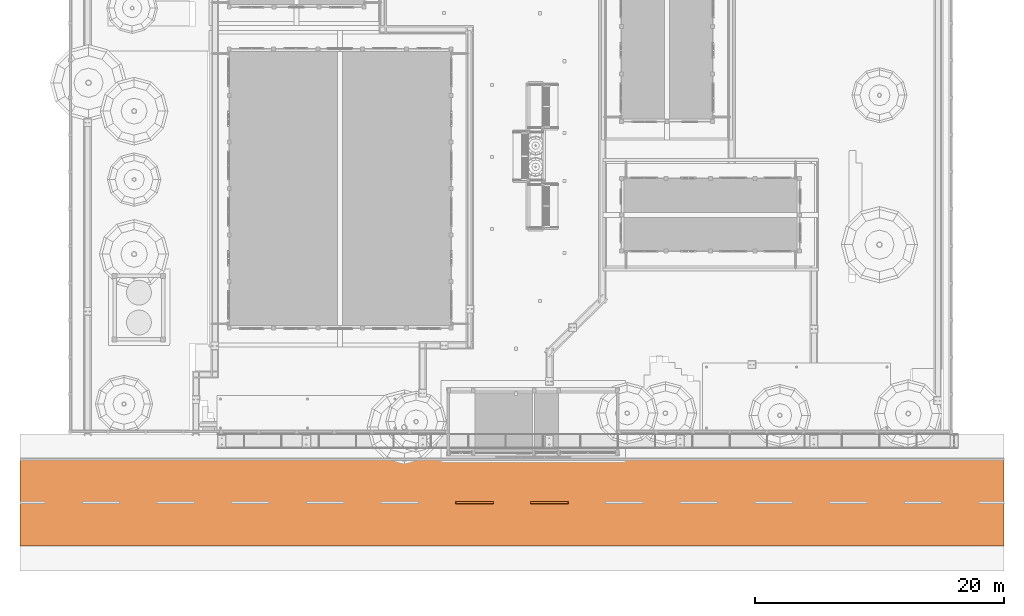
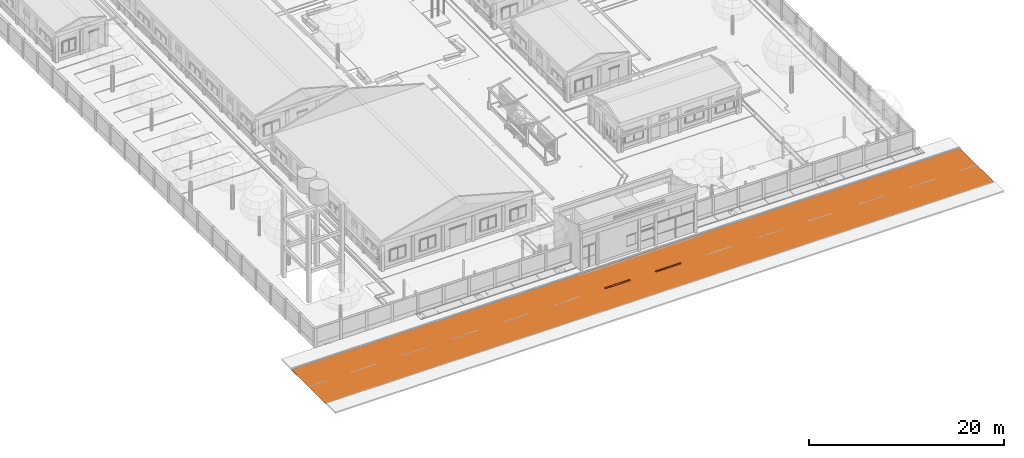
# One storey, part 156 of 177: 3 proxies.
"""IFC4 building model written with IfcOpenShell, lengths in metres."""

from ifc_helpers import new_model, si_unit, origin, origin_with_axes, place, context, subcontext, project, spatial, triangles, element, save


model = new_model("IFC4")

# Units and contexts
model_context = context("Model", 3, precision=1e-05, world=origin_with_axes())
body_context = subcontext(model_context, "Body", "Model", "MODEL_VIEW")
ifc_project = project(units=[si_unit("LENGTHUNIT", "METRE"), si_unit("AREAUNIT", "SQUARE_METRE"), si_unit("VOLUMEUNIT", "CUBIC_METRE"), si_unit("PLANEANGLEUNIT", "RADIAN")], contexts=[model_context])

# Site, building, storey
site_placement = place(None, origin_with_axes())
site = spatial("IfcSite", under=ifc_project, at=site_placement, Name="Predio Los Mangos - Morales, San Martín", CompositionType="ELEMENT")
building_placement = place(site_placement, origin())
building = spatial("IfcBuilding", under=site, at=building_placement, Name="Hogar de Refugio Temporal", CompositionType="ELEMENT")
storey_placement = place(building_placement, origin())
storey = spatial("IfcBuildingStorey", under=building, at=storey_placement, Name="NIVEL 1 (NPT +0.00)", CompositionType="ELEMENT", Elevation=0.0)

# Proxies
proxy_1_placement = place(storey_placement, origin())
element("IfcBuildingElementProxy", 1, at=proxy_1_placement, inside=storey, Name="pista", ObjectType="Losa deportiva y vía", PredefinedType="NOTDEFINED", context=body_context, shape_type="Tessellation", body=[
    triangles([(-3.0, 8.8, -0.02), (76.0, 8.8, -0.02), (76.0, 15.8, -0.02), (-3.0, 15.8, -0.02), (-3.0, 8.8, 0.02), (76.0, 8.8, 0.02), (76.0, 15.8, 0.02), (-3.0, 15.8, 0.02)], [[1, 4, 3], [1, 3, 2], [5, 6, 7], [5, 7, 8], [1, 2, 6], [1, 6, 5], [2, 3, 7], [2, 7, 6], [3, 4, 8], [3, 8, 7], [4, 1, 5], [4, 5, 8]]),
])
proxy_2_placement = place(storey_placement, origin())
element("IfcBuildingElementProxy", 2, at=proxy_2_placement, inside=storey, Name="linea_carril", ObjectType="Losa deportiva y vía", PredefinedType="NOTDEFINED", context=body_context, shape_type="Tessellation", body=[
    triangles([(32.0, 12.22, 0.02), (35.0, 12.22, 0.02), (35.0, 12.38, 0.02), (32.0, 12.38, 0.02), (32.0, 12.22, 0.025), (35.0, 12.22, 0.025), (35.0, 12.38, 0.025), (32.0, 12.38, 0.025)], [[1, 4, 3], [1, 3, 2], [5, 6, 7], [5, 7, 8], [1, 2, 6], [1, 6, 5], [2, 3, 7], [2, 7, 6], [3, 4, 8], [3, 8, 7], [4, 1, 5], [4, 5, 8]]),
])
proxy_3_placement = place(storey_placement, origin())
element("IfcBuildingElementProxy", 3, at=proxy_3_placement, inside=storey, Name="linea_carril", ObjectType="Losa deportiva y vía", PredefinedType="NOTDEFINED", context=body_context, shape_type="Tessellation", body=[
    triangles([(38.0, 12.22, 0.02), (41.0, 12.22, 0.02), (41.0, 12.38, 0.02), (38.0, 12.38, 0.02), (38.0, 12.22, 0.025), (41.0, 12.22, 0.025), (41.0, 12.38, 0.025), (38.0, 12.38, 0.025)], [[1, 4, 3], [1, 3, 2], [5, 6, 7], [5, 7, 8], [1, 2, 6], [1, 6, 5], [2, 3, 7], [2, 7, 6], [3, 4, 8], [3, 8, 7], [4, 1, 5], [4, 5, 8]]),
])

save(model, "model.ifc")
